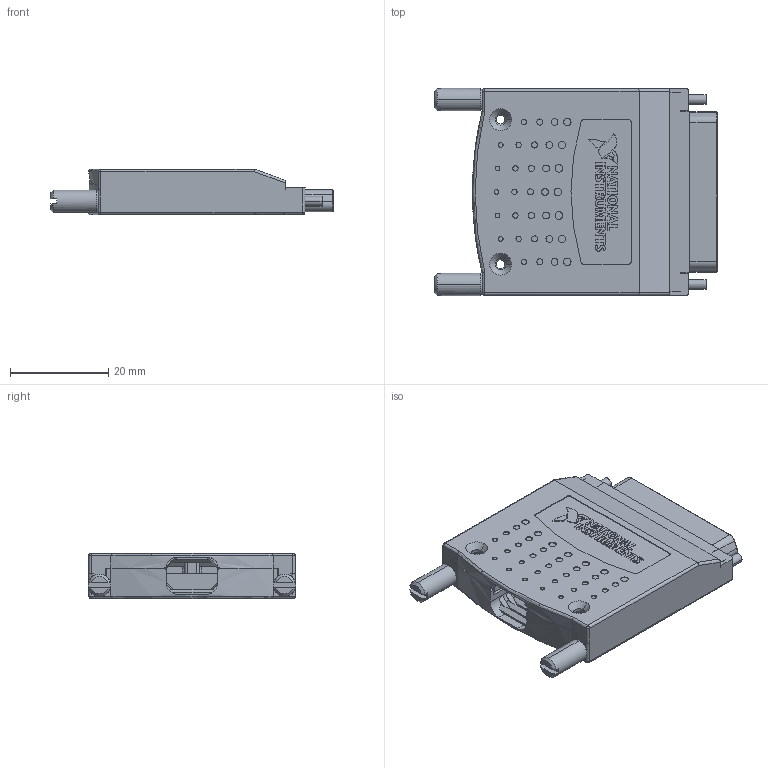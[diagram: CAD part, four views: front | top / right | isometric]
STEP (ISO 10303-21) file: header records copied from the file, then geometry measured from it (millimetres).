
FILE_DESCRIPTION((''),'2;1');
FILE_NAME('VHDCI-CABLE-BACKSHELL-68POS','2007-05-23T',('chrisj'),(''),'PRO/ENGINEER BY PARAMETRIC TECHNOLOGY CORPORATION, 2006300','PRO/ENGINEER BY PARAMETRIC TECHNOLOGY CORPORATION, 2006300','');
FILE_SCHEMA(('AUTOMOTIVE_DESIGN_CC2 { 1 2 10303 214 -1 1 5 2 }'));
Products named in the file (1): VHDCI-CABLE-BACKSHELL-68POS
Bounding box: 57.57 x 42.24 x 9.22 mm (x, y, z)
Volume: 8875.2 mm3; surface area: 13668.2 mm2
Topology: 1 solids, 1 shells, 2467 faces, 6924 edges, 4568 vertices
Faces by surface type: plane 2034, cylinder 367, cone 18, extrusion 18, torus 14, bspline 12, sphere 4
Entity records: 79371 total; most frequent: CARTESIAN_POINT 15215, ORIENTED_EDGE 13844, DIRECTION 12448, EDGE_CURVE 6922, VECTOR 6000, LINE 5982, VERTEX_POINT 4568, AXIS2_PLACEMENT_3D 3224
